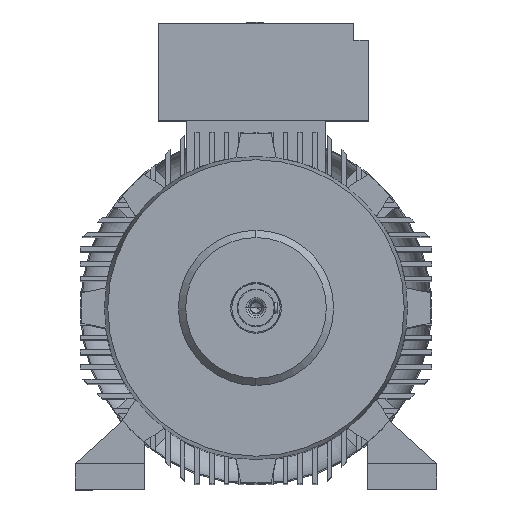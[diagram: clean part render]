
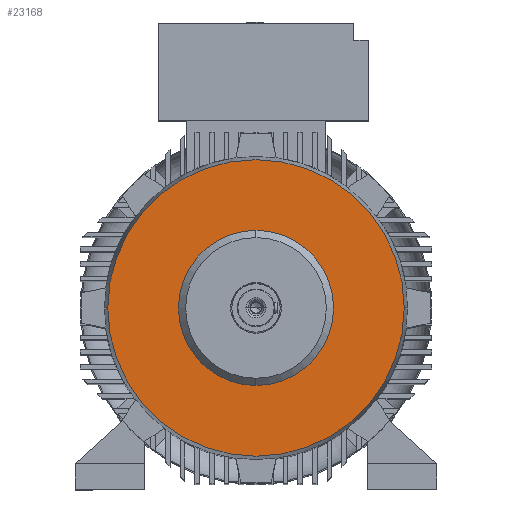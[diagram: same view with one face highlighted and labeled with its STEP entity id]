
A CAD part, top view. The second image highlights one B-rep face of the part: STEP entity #23168.
In plain terms, the highlighted planar face has unit normal (0, 0, 1).
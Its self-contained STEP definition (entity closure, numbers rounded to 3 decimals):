
#706 = ORIENTED_EDGE ( 'NONE', *, *, #1606, .T. ) ;
#879 = FACE_BOUND ( 'NONE', #10584, .T. ) ;
#1000 = CIRCLE ( 'NONE', #16437, 134.8 ) ;
#1348 = DIRECTION ( 'NONE',  ( 0., -1., 0. ) ) ;
#1404 = CARTESIAN_POINT ( 'NONE',  ( 0., 134.8, 455.4 ) ) ;
#1606 = EDGE_CURVE ( 'NONE', #13690, #3011, #9694, .T. ) ;
#1916 = DIRECTION ( 'NONE',  ( 0., 0., -1. ) ) ;
#2736 = CARTESIAN_POINT ( 'NONE',  ( 0., -134.8, 455.4 ) ) ;
#3011 = VERTEX_POINT ( 'NONE', #19111 ) ;
#3181 = DIRECTION ( 'NONE',  ( 0., 0., 1. ) ) ;
#4255 = CIRCLE ( 'NONE', #19637, 257.574 ) ;
#6548 = CARTESIAN_POINT ( 'NONE',  ( 0., 0., 455.4 ) ) ;
#6912 = ORIENTED_EDGE ( 'NONE', *, *, #19603, .T. ) ;
#6952 = ORIENTED_EDGE ( 'NONE', *, *, #9459, .T. ) ;
#7019 = VERTEX_POINT ( 'NONE', #2736 ) ;
#7110 = EDGE_CURVE ( 'NONE', #3011, #13690, #4255, .T. ) ;
#7512 = CIRCLE ( 'NONE', #10882, 134.8 ) ;
#7763 = AXIS2_PLACEMENT_3D ( 'NONE', #6548, #20767, #22831 ) ;
#7840 = FACE_OUTER_BOUND ( 'NONE', #20631, .T. ) ;
#8981 = ORIENTED_EDGE ( 'NONE', *, *, #7110, .T. ) ;
#9223 = CARTESIAN_POINT ( 'NONE',  ( 0., 0., 455.4 ) ) ;
#9459 = EDGE_CURVE ( 'NONE', #15706, #7019, #7512, .T. ) ;
#9692 = CARTESIAN_POINT ( 'NONE',  ( 0., 0., 455.4 ) ) ;
#9694 = CIRCLE ( 'NONE', #7763, 257.574 ) ;
#9993 = PLANE ( 'NONE',  #21135 ) ;
#10584 = EDGE_LOOP ( 'NONE', ( #6912, #6952 ) ) ;
#10882 = AXIS2_PLACEMENT_3D ( 'NONE', #9223, #11272, #1348 ) ;
#11160 = DIRECTION ( 'NONE',  ( 0., -1., 0. ) ) ;
#11272 = DIRECTION ( 'NONE',  ( 0., 0., -1. ) ) ;
#12033 = CARTESIAN_POINT ( 'NONE',  ( 0., 257.574, 455.4 ) ) ;
#12929 = CARTESIAN_POINT ( 'NONE',  ( 0., 0., 455.4 ) ) ;
#13690 = VERTEX_POINT ( 'NONE', #17794 ) ;
#15706 = VERTEX_POINT ( 'NONE', #1404 ) ;
#16437 = AXIS2_PLACEMENT_3D ( 'NONE', #9692, #19918, #23937 ) ;
#17794 = CARTESIAN_POINT ( 'NONE',  ( 257.574, 0., 455.4 ) ) ;
#19111 = CARTESIAN_POINT ( 'NONE',  ( -257.574, 0., 455.4 ) ) ;
#19603 = EDGE_CURVE ( 'NONE', #7019, #15706, #1000, .T. ) ;
#19637 = AXIS2_PLACEMENT_3D ( 'NONE', #12929, #3181, #11160 ) ;
#19918 = DIRECTION ( 'NONE',  ( 0., 0., -1. ) ) ;
#20221 = DIRECTION ( 'NONE',  ( 1., 0., 0. ) ) ;
#20631 = EDGE_LOOP ( 'NONE', ( #706, #8981 ) ) ;
#20767 = DIRECTION ( 'NONE',  ( 0., 0., 1. ) ) ;
#21135 = AXIS2_PLACEMENT_3D ( 'NONE', #12033, #1916, #20221 ) ;
#22831 = DIRECTION ( 'NONE',  ( 0., -1., 0. ) ) ;
#23168 = ADVANCED_FACE ( 'NONE', ( #7840, #879 ), #9993, .F. ) ;
#23937 = DIRECTION ( 'NONE',  ( 0., -1., 0. ) ) ;
